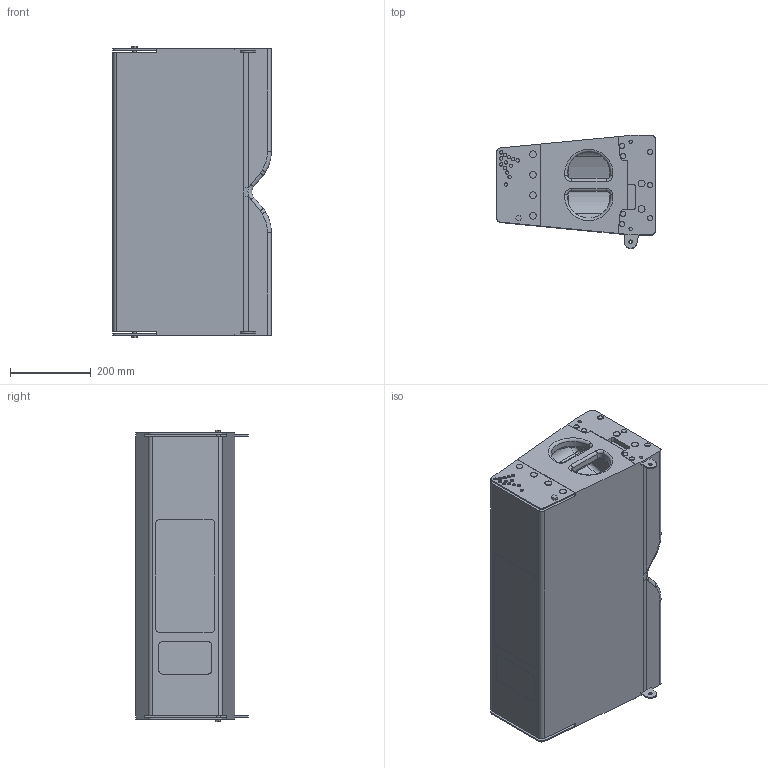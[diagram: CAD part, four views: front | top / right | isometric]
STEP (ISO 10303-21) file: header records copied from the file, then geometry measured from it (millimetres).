
FILE_DESCRIPTION(/* description */ (''),/* implementation_level */ '2;1');
FILE_NAME(/* name */ 'LA28 TOUR BLOCK v2.step',/* time_stamp */ '2023-01-22T00:58:37-08:00',/* author */ (''),/* organization */ (''),/* preprocessor_version */ 'ST-DEVELOPER v19.2',/* originating_system */ 'Autodesk Translation Framework v11.17.0.187',/* authorisation */ '');
FILE_SCHEMA (('AUTOMOTIVE_DESIGN { 1 0 10303 214 3 1 1 }'));
Length unit declared in the file: inch
Products named in the file (1): LA28 TOUR BLOCK
Bounding box: 393.7 x 279.72 x 723.29 mm (x, y, z)
Volume: 57543995.8 mm3; surface area: 1238003.9 mm2
Topology: 1 solids, 1 shells, 416 faces, 990 edges, 636 vertices
Faces by surface type: cylinder 179, plane 177, torus 54, bspline 6
Full cylindrical faces by diameter (mm): 8.319 x6, 8.382 x54, 8.7 x2, 13 x14, 17 x12
Entity records: 12869 total; most frequent: CARTESIAN_POINT 2513, DIRECTION 2262, ORIENTED_EDGE 1980, EDGE_CURVE 990, AXIS2_PLACEMENT_3D 873, VERTEX_POINT 636, EDGE_LOOP 544, LINE 516
